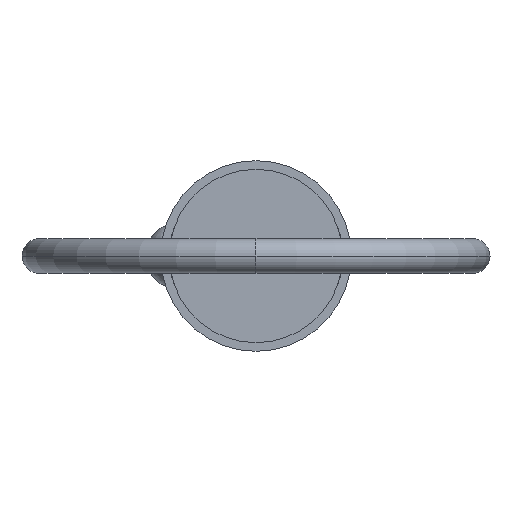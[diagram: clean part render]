
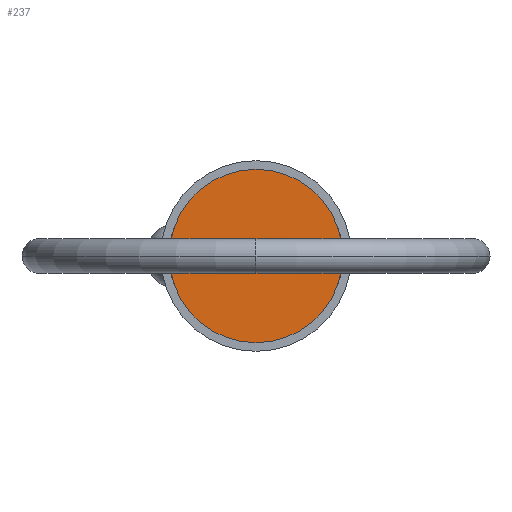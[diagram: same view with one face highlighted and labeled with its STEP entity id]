
A CAD part, left-side view. The second image highlights one B-rep face of the part: STEP entity #237.
In plain terms, the highlighted planar face has unit normal (-1, 0, 0).
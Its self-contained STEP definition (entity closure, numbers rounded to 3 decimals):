
#92 = DIRECTION ( 'NONE',  ( -1., 0., 0. ) ) ;
#137 = VERTEX_POINT ( 'NONE', #792 ) ;
#164 = PLANE ( 'NONE',  #209 ) ;
#209 = AXIS2_PLACEMENT_3D ( 'NONE', #843, #92, #757 ) ;
#218 = EDGE_LOOP ( 'NONE', ( #770, #346 ) ) ;
#219 = CARTESIAN_POINT ( 'NONE',  ( 0., 0., -12.7 ) ) ;
#222 = FACE_OUTER_BOUND ( 'NONE', #218, .T. ) ;
#237 = ADVANCED_FACE ( 'NONE', ( #222 ), #164, .T. ) ;
#238 = CIRCLE ( 'NONE', #327, 12.7 ) ;
#327 = AXIS2_PLACEMENT_3D ( 'NONE', #916, #1082, #664 ) ;
#346 = ORIENTED_EDGE ( 'NONE', *, *, #586, .F. ) ;
#452 = CARTESIAN_POINT ( 'NONE',  ( 0., 0., 0. ) ) ;
#517 = DIRECTION ( 'NONE',  ( 0., 0., -1. ) ) ;
#586 = EDGE_CURVE ( 'NONE', #137, #1008, #238, .T. ) ;
#664 = DIRECTION ( 'NONE',  ( 0., 0., -1. ) ) ;
#686 = DIRECTION ( 'NONE',  ( 1., 0., 0. ) ) ;
#726 = EDGE_CURVE ( 'NONE', #1008, #137, #928, .T. ) ;
#757 = DIRECTION ( 'NONE',  ( 0., 0., 1. ) ) ;
#770 = ORIENTED_EDGE ( 'NONE', *, *, #726, .F. ) ;
#792 = CARTESIAN_POINT ( 'NONE',  ( 0., 0., 12.7 ) ) ;
#843 = CARTESIAN_POINT ( 'NONE',  ( 0., 0., 0. ) ) ;
#916 = CARTESIAN_POINT ( 'NONE',  ( 0., 0., 0. ) ) ;
#928 = CIRCLE ( 'NONE', #991, 12.7 ) ;
#991 = AXIS2_PLACEMENT_3D ( 'NONE', #452, #686, #517 ) ;
#1008 = VERTEX_POINT ( 'NONE', #219 ) ;
#1082 = DIRECTION ( 'NONE',  ( 1., 0., 0. ) ) ;
